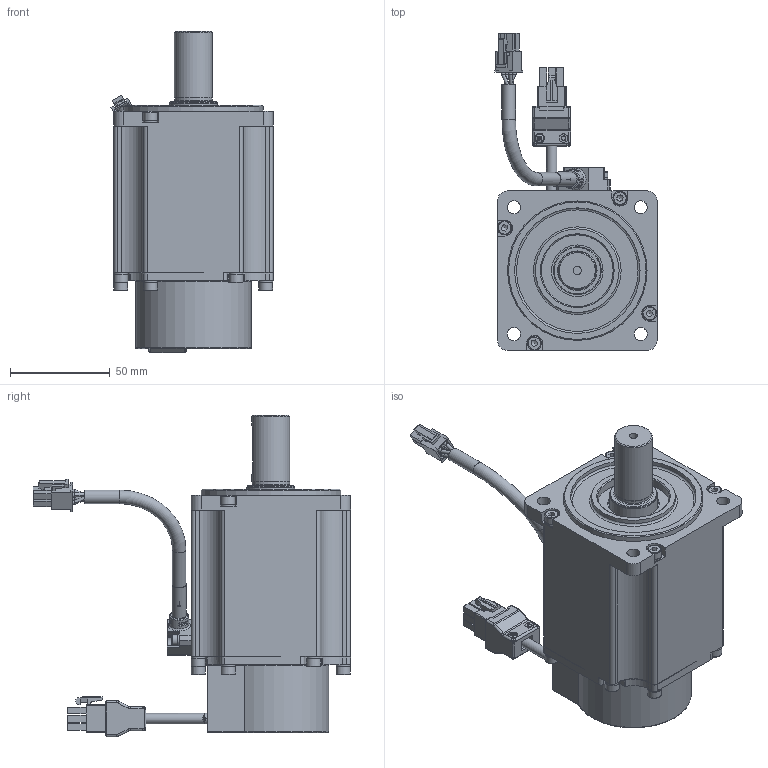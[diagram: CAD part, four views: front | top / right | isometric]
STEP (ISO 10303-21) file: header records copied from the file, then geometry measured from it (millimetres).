
FILE_DESCRIPTION(/* description */ (''),/* implementation_level */ '2;1');
FILE_NAME(/* name */ 'C:\Users\11755\Desktop\SME(磁編)\SME(磁編)_馬達外型圖(客戶版)\3D-STP\SME-L075(磁編).stp',/* time_stamp */ '2021-08-02T11:09:05+08:00',/* author */ ('11755'),/* organization */ (''),/* preprocessor_version */ 'ST-DEVELOPER v17',/* originating_system */ 'Autodesk Inventor 2019',/* authorisation */ '');
FILE_SCHEMA (('AUTOMOTIVE_DESIGN { 1 0 10303 214 3 1 1 }'));
Products named in the file (1): SME-L075(磁編)_20201202_Shrinkwrap_1
Bounding box: 81.31 x 159.11 x 161.2 mm (x, y, z)
Volume: 603078.9 mm3; surface area: 66925.2 mm2
Topology: 2 solids, 7 shells, 1370 faces, 3755 edges, 2442 vertices
Faces by surface type: plane 824, cylinder 279, bspline 98, cone 85, torus 48, sphere 36
Full cylindrical faces by diameter (mm): 1.2 x4, 1.5 x4, 1.6 x4, 2 x4, 2.459 x2, 2.6 x9, 4.2 x1, 5 x2, 5.3 x1, 5.32 x2, 5.5 x2, 6.1 x1, 6.6 x4, 6.8 x2, 6.9 x12, 7 x12, 7.2 x2, 9.6 x1, 18.8 x1, 19 x1, 23.8 x2, 24 x1, 25.8 x1, 36 x1, 42 x1, 63 x1, 70 x1
Entity records: 52663 total; most frequent: CARTESIAN_POINT 16895, ORIENTED_EDGE 7442, DIRECTION 6915, EDGE_CURVE 3722, VERTEX_POINT 2442, AXIS2_PLACEMENT_3D 2359, LINE 2197, VECTOR 2197
